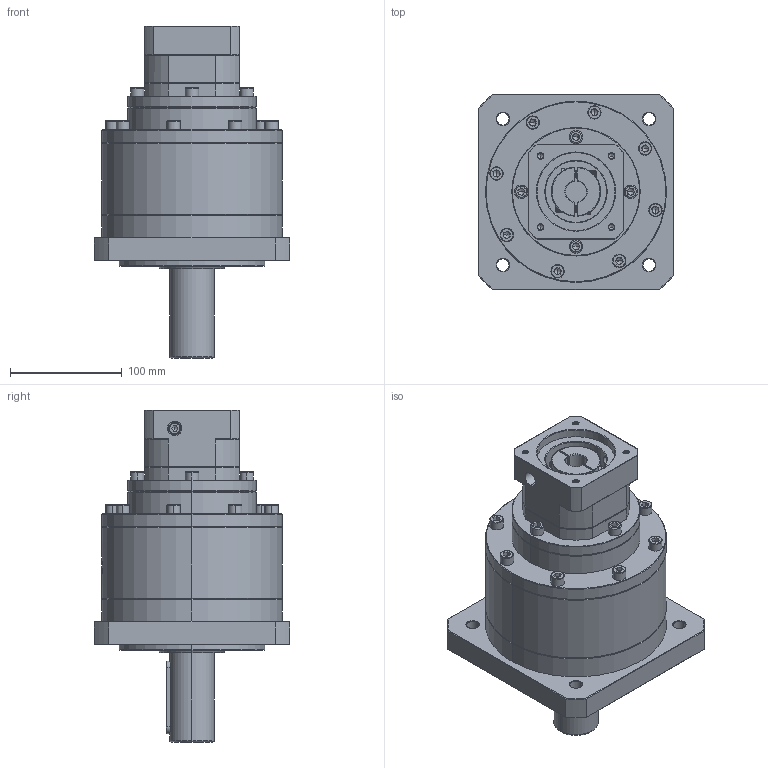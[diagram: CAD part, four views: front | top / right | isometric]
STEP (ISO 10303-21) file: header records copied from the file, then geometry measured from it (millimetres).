
FILE_DESCRIPTION (( 'STEP AP214' ), '1' );
FILE_NAME ('ZF160A-D40-L3-19-70-90-M6.step', '2023-03-22T07:11:39', ( '' ), ( '' ), 'SwSTEP 2.0', 'SolidWorks 2016', '' );
FILE_SCHEMA (( 'AUTOMOTIVE_DESIGN' ));
Length unit declared in the file: millimetre
Products named in the file (1): ZF160A-D40-L3-19-70-90-M6
Bounding box: 175 x 175 x 297.2 mm (x, y, z)
Volume: 3406526.1 mm3; surface area: 225815.4 mm2
Topology: 5 solids, 5 shells, 1819 faces, 4640 edges, 2938 vertices
Faces by surface type: plane 766, cylinder 458, cone 330, bspline 219, torus 46
Entity records: 96737 total; most frequent: CARTESIAN_POINT 35080, ORIENTED_EDGE 9172, DIRECTION 7954, EDGE_CURVE 4586, VERTEX_POINT 2938, AXIS2_PLACEMENT_3D 2735, LINE 2484, VECTOR 2484
